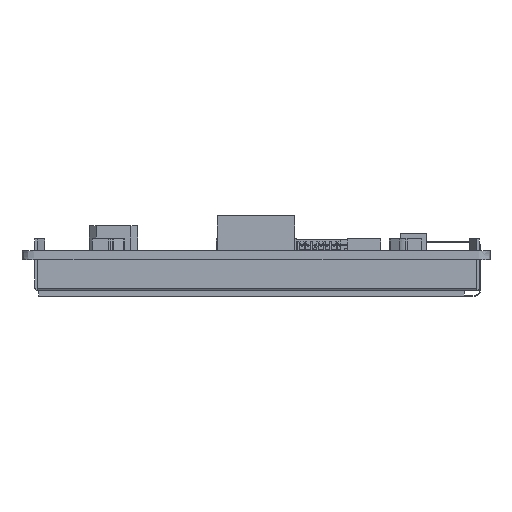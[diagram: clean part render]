
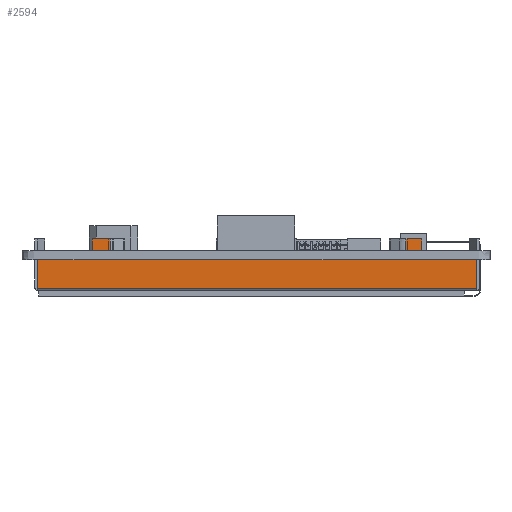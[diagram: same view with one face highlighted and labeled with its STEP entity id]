
A CAD part, left-side view. The second image highlights one B-rep face of the part: STEP entity #2594.
In plain terms, the highlighted planar face has unit normal (-1, 0, 0).
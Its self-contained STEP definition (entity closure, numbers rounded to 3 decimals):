
#2594=ADVANCED_FACE('',(#4784),#3587,.F.);
#3587=PLANE('',#27297);
#4784=FACE_OUTER_BOUND('',#6112,.T.);
#6112=EDGE_LOOP('',(#12877,#12878,#12879,#12880,#12881,#12882,#12883,#12884,
#12885,#12886,#12887,#12888,#12889,#12890,#12891,#12892));
#12877=ORIENTED_EDGE('',*,*,#19286,.F.);
#12878=ORIENTED_EDGE('',*,*,#19287,.T.);
#12879=ORIENTED_EDGE('',*,*,#19288,.T.);
#12880=ORIENTED_EDGE('',*,*,#19283,.T.);
#12881=ORIENTED_EDGE('',*,*,#19289,.T.);
#12882=ORIENTED_EDGE('',*,*,#19290,.F.);
#12883=ORIENTED_EDGE('',*,*,#19291,.T.);
#12884=ORIENTED_EDGE('',*,*,#19292,.F.);
#12885=ORIENTED_EDGE('',*,*,#19293,.F.);
#12886=ORIENTED_EDGE('',*,*,#19279,.T.);
#12887=ORIENTED_EDGE('',*,*,#19294,.T.);
#12888=ORIENTED_EDGE('',*,*,#19295,.T.);
#12889=ORIENTED_EDGE('',*,*,#19296,.F.);
#12890=ORIENTED_EDGE('',*,*,#19297,.F.);
#12891=ORIENTED_EDGE('',*,*,#19298,.F.);
#12892=ORIENTED_EDGE('',*,*,#19277,.T.);
#15925=VERTEX_POINT('',#40306);
#15927=VERTEX_POINT('',#40310);
#15928=VERTEX_POINT('',#40314);
#15930=VERTEX_POINT('',#40317);
#15932=VERTEX_POINT('',#40323);
#15934=VERTEX_POINT('',#40326);
#15936=VERTEX_POINT('',#40332);
#15937=VERTEX_POINT('',#40334);
#15938=VERTEX_POINT('',#40337);
#15939=VERTEX_POINT('',#40339);
#15940=VERTEX_POINT('',#40341);
#15941=VERTEX_POINT('',#40343);
#15942=VERTEX_POINT('',#40346);
#15943=VERTEX_POINT('',#40348);
#15944=VERTEX_POINT('',#40350);
#15945=VERTEX_POINT('',#40352);
#19277=EDGE_CURVE('',#15925,#15927,#22290,.T.);
#19279=EDGE_CURVE('',#15930,#15928,#22292,.T.);
#19283=EDGE_CURVE('',#15934,#15932,#22296,.T.);
#19286=EDGE_CURVE('',#15936,#15927,#22299,.T.);
#19287=EDGE_CURVE('',#15936,#15937,#22300,.T.);
#19288=EDGE_CURVE('',#15937,#15934,#22301,.T.);
#19289=EDGE_CURVE('',#15932,#15938,#22302,.T.);
#19290=EDGE_CURVE('',#15939,#15938,#22303,.T.);
#19291=EDGE_CURVE('',#15939,#15940,#22304,.T.);
#19292=EDGE_CURVE('',#15941,#15940,#22305,.T.);
#19293=EDGE_CURVE('',#15930,#15941,#22306,.T.);
#19294=EDGE_CURVE('',#15928,#15942,#22307,.T.);
#19295=EDGE_CURVE('',#15942,#15943,#22308,.T.);
#19296=EDGE_CURVE('',#15944,#15943,#22309,.T.);
#19297=EDGE_CURVE('',#15945,#15944,#22310,.T.);
#19298=EDGE_CURVE('',#15925,#15945,#22311,.T.);
#22290=LINE('',#40311,#25237);
#22292=LINE('',#40316,#25239);
#22296=LINE('',#40325,#25243);
#22299=LINE('',#40331,#25246);
#22300=LINE('',#40333,#25247);
#22301=LINE('',#40335,#25248);
#22302=LINE('',#40336,#25249);
#22303=LINE('',#40338,#25250);
#22304=LINE('',#40340,#25251);
#22305=LINE('',#40342,#25252);
#22306=LINE('',#40344,#25253);
#22307=LINE('',#40345,#25254);
#22308=LINE('',#40347,#25255);
#22309=LINE('',#40349,#25256);
#22310=LINE('',#40351,#25257);
#22311=LINE('',#40353,#25258);
#25237=VECTOR('',#33155,1.);
#25239=VECTOR('',#33159,1.);
#25243=VECTOR('',#33165,1.);
#25246=VECTOR('',#33170,1.);
#25247=VECTOR('',#33171,1.);
#25248=VECTOR('',#33172,1.);
#25249=VECTOR('',#33173,1.);
#25250=VECTOR('',#33174,1.);
#25251=VECTOR('',#33175,1.);
#25252=VECTOR('',#33176,1.);
#25253=VECTOR('',#33177,1.);
#25254=VECTOR('',#33178,1.);
#25255=VECTOR('',#33179,1.);
#25256=VECTOR('',#33180,1.);
#25257=VECTOR('',#33181,1.);
#25258=VECTOR('',#33182,1.);
#27297=AXIS2_PLACEMENT_3D('',#40354,#33183,#33184);
#33155=DIRECTION('',(0.,1.,0.));
#33159=DIRECTION('',(0.,1.,0.));
#33165=DIRECTION('',(0.,1.,0.));
#33170=DIRECTION('',(0.,0.,1.));
#33171=DIRECTION('',(0.,-1.,0.));
#33172=DIRECTION('',(0.,0.,1.));
#33173=DIRECTION('',(0.,0.,1.));
#33174=DIRECTION('',(0.,-1.,0.));
#33175=DIRECTION('',(0.,0.,-1.));
#33176=DIRECTION('',(0.,-1.,0.));
#33177=DIRECTION('',(0.,0.,1.));
#33178=DIRECTION('',(0.,0.,1.));
#33179=DIRECTION('',(0.,-1.,0.));
#33180=DIRECTION('',(0.,0.,-1.));
#33181=DIRECTION('',(0.,-1.,0.));
#33182=DIRECTION('',(0.,0.,1.));
#33183=DIRECTION('',(1.,0.,0.));
#33184=DIRECTION('',(0.,-1.,0.));
#40306=CARTESIAN_POINT('',(59.66,45.295,-1.6));
#40310=CARTESIAN_POINT('',(59.66,54.82,-1.6));
#40311=CARTESIAN_POINT('',(59.66,-21.2,-1.6));
#40314=CARTESIAN_POINT('',(59.66,42.295,-1.6));
#40316=CARTESIAN_POINT('',(59.66,-21.2,-1.6));
#40317=CARTESIAN_POINT('',(59.66,-8.635,-1.6));
#40323=CARTESIAN_POINT('',(59.66,-11.635,-1.6));
#40325=CARTESIAN_POINT('',(59.66,-21.2,-1.6));
#40326=CARTESIAN_POINT('',(59.66,-21.2,-1.6));
#40331=CARTESIAN_POINT('',(59.66,54.82,-6.9));
#40332=CARTESIAN_POINT('',(59.66,54.82,-6.5));
#40333=CARTESIAN_POINT('',(59.66,-21.2,-6.5));
#40334=CARTESIAN_POINT('',(59.66,-21.2,-6.5));
#40335=CARTESIAN_POINT('',(59.66,-21.2,-6.9));
#40336=CARTESIAN_POINT('',(59.66,-11.635,-1.6));
#40337=CARTESIAN_POINT('',(59.66,-11.635,2.));
#40338=CARTESIAN_POINT('',(59.66,-8.924,2.));
#40339=CARTESIAN_POINT('',(59.66,-8.924,2.));
#40340=CARTESIAN_POINT('',(59.66,-8.924,2.));
#40341=CARTESIAN_POINT('',(59.66,-8.924,0.));
#40342=CARTESIAN_POINT('',(59.66,-8.635,0.));
#40343=CARTESIAN_POINT('',(59.66,-8.635,0.));
#40344=CARTESIAN_POINT('',(59.66,-8.635,-1.6));
#40345=CARTESIAN_POINT('',(59.66,42.295,-1.6));
#40346=CARTESIAN_POINT('',(59.66,42.295,0.));
#40347=CARTESIAN_POINT('',(59.66,45.295,0.));
#40348=CARTESIAN_POINT('',(59.66,42.191,0.));
#40349=CARTESIAN_POINT('',(59.66,42.191,2.));
#40350=CARTESIAN_POINT('',(59.66,42.191,2.));
#40351=CARTESIAN_POINT('',(59.66,45.295,2.));
#40352=CARTESIAN_POINT('',(59.66,45.295,2.));
#40353=CARTESIAN_POINT('',(59.66,45.295,-1.6));
#40354=CARTESIAN_POINT('',(59.66,-21.2,-6.9));
